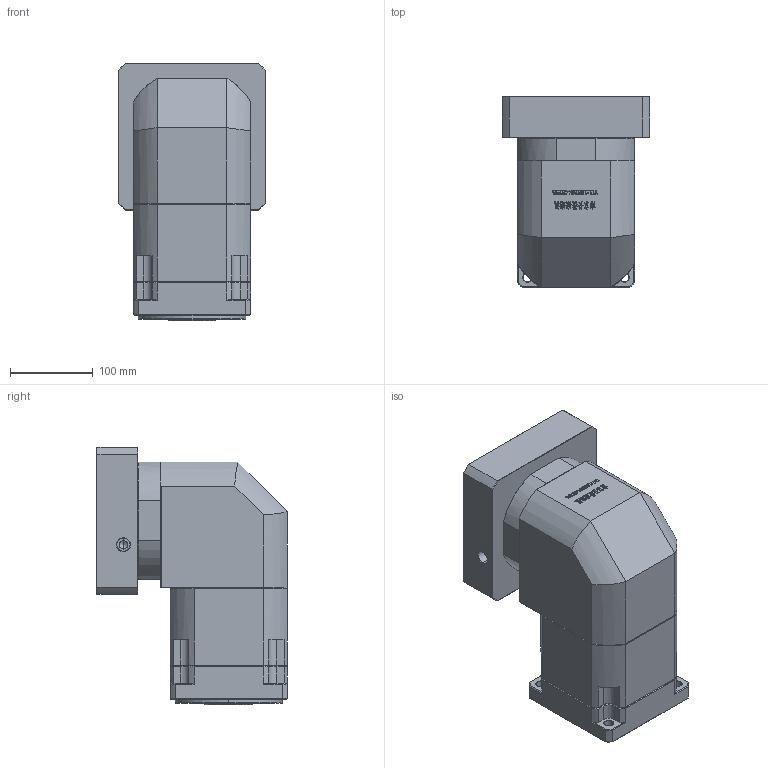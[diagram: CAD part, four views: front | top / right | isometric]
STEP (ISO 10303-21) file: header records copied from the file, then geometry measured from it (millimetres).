
FILE_DESCRIPTION (( 'STEP AP214' ), '1' );
FILE_NAME ('ZBR142A-K35-L2-35-150-200-M12.step', '2023-03-18T09:27:16', ( '' ), ( '' ), 'SwSTEP 2.0', 'SolidWorks 2016', '' );
FILE_SCHEMA (( 'AUTOMOTIVE_DESIGN' ));
Length unit declared in the file: millimetre
Products named in the file (1): ZBR142A-K35-L2-35-150-200-M12
Bounding box: 178 x 231 x 311.7 mm (x, y, z)
Volume: 6502058 mm3; surface area: 442139.2 mm2
Topology: 6 solids, 6 shells, 2841 faces, 7591 edges, 4898 vertices
Faces by surface type: plane 1533, bspline 585, cylinder 377, cone 326, torus 20
Entity records: 155904 total; most frequent: CARTESIAN_POINT 58145, ORIENTED_EDGE 15126, DIRECTION 11483, EDGE_CURVE 7563, LINE 5155, VECTOR 5155, VERTEX_POINT 4898, AXIS2_PLACEMENT_3D 3164
